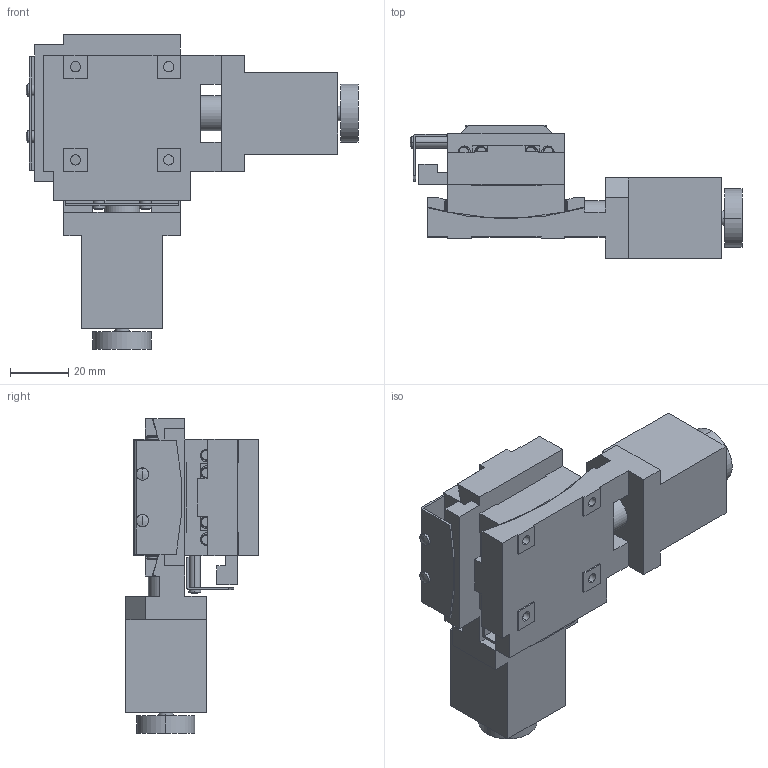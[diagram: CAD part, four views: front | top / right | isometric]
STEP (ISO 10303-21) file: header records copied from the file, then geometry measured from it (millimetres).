
FILE_DESCRIPTION (( 'STEP AP203' ), '1' );
FILE_NAME ('ATD-C410C-HM.STEP', '2021-06-01T10:28:56', ( '' ), ( '' ), 'SwSTEP 2.0', 'SolidWorks 2016', '' );
FILE_SCHEMA (( 'CONFIG_CONTROL_DESIGN' ));
Length unit declared in the file: millimetre
Products named in the file (4): ATD-C410C-HM-2; ATD-C410C-HM; ATD-C410C-HM-1; ATD-C410C-HM-3
Assembly tree (3 placements, depth 2):
  ATD-C410C-HM
    ATD-C410C-HM-1
    ATD-C410C-HM-2
    ATD-C410C-HM-3
Bounding box: 114 x 46 x 108 mm (x, y, z)
Volume: 149832.1 mm3; surface area: 47959.7 mm2
Topology: 3 solids, 11 shells, 491 faces, 1202 edges, 776 vertices
Faces by surface type: plane 231, cylinder 202, cone 50, sphere 8
Entity records: 15666 total; most frequent: CARTESIAN_POINT 3293, DIRECTION 2612, ORIENTED_EDGE 2404, EDGE_CURVE 1202, AXIS2_PLACEMENT_3D 975, VERTEX_POINT 776, LINE 662, VECTOR 662
